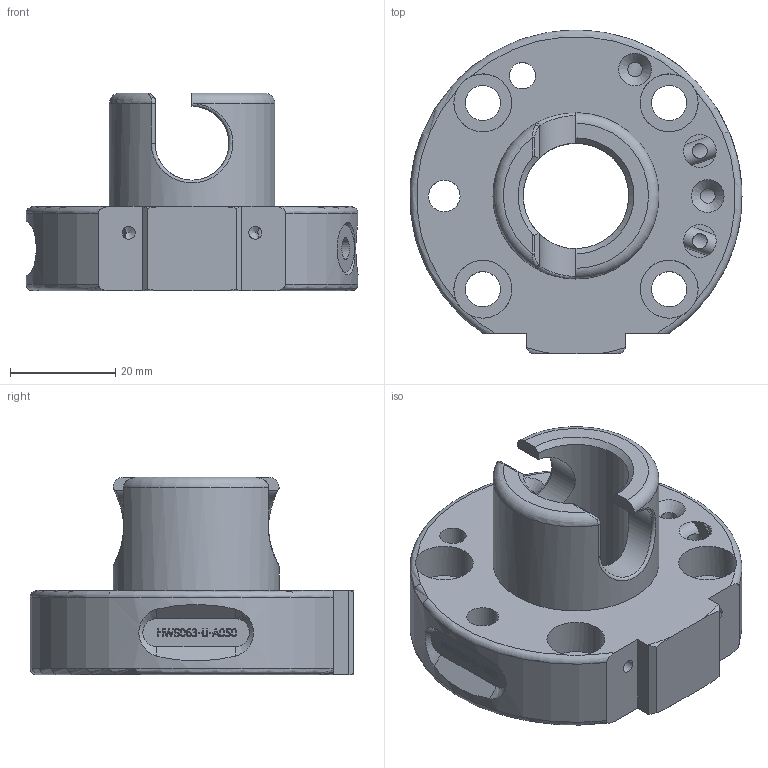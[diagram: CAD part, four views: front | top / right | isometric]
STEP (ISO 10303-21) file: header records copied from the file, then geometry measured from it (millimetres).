
FILE_DESCRIPTION(/* description */ (''),/* implementation_level */ '2;1');
FILE_NAME(/* name */ 'G-HWS063-U-A050_Rev.1.01.stp',/* time_stamp */ '2025-03-18T14:50:17+01:00',/* author */ ('ysplieth'),/* organization */ (''),/* preprocessor_version */ 'ST-DEVELOPER v20',/* originating_system */ 'Autodesk Inventor 2024',/* authorisation */ '');
FILE_SCHEMA (('AUTOMOTIVE_DESIGN { 1 0 10303 214 3 1 1 }'));
Length unit declared in the file: millimetre
Products named in the file (1): Bauteil1
Bounding box: 63 x 61.45 x 37.5 mm (x, y, z)
Volume: 43223.4 mm3; surface area: 15345.2 mm2
Topology: 1 solids, 1 shells, 301 faces, 818 edges, 541 vertices
Faces by surface type: bspline 121, plane 118, cylinder 38, cone 16, torus 8
Full cylindrical faces by diameter (mm): 2.459 x2, 2.8 x4, 4.134 x4, 5 x1, 6 x1, 6.647 x4, 11 x4, 20 x1, 31.5 x2
Entity records: 12453 total; most frequent: CARTESIAN_POINT 5520, ORIENTED_EDGE 1624, DIRECTION 963, EDGE_CURVE 812, VERTEX_POINT 541, LINE 411, VECTOR 411, EDGE_LOOP 355
